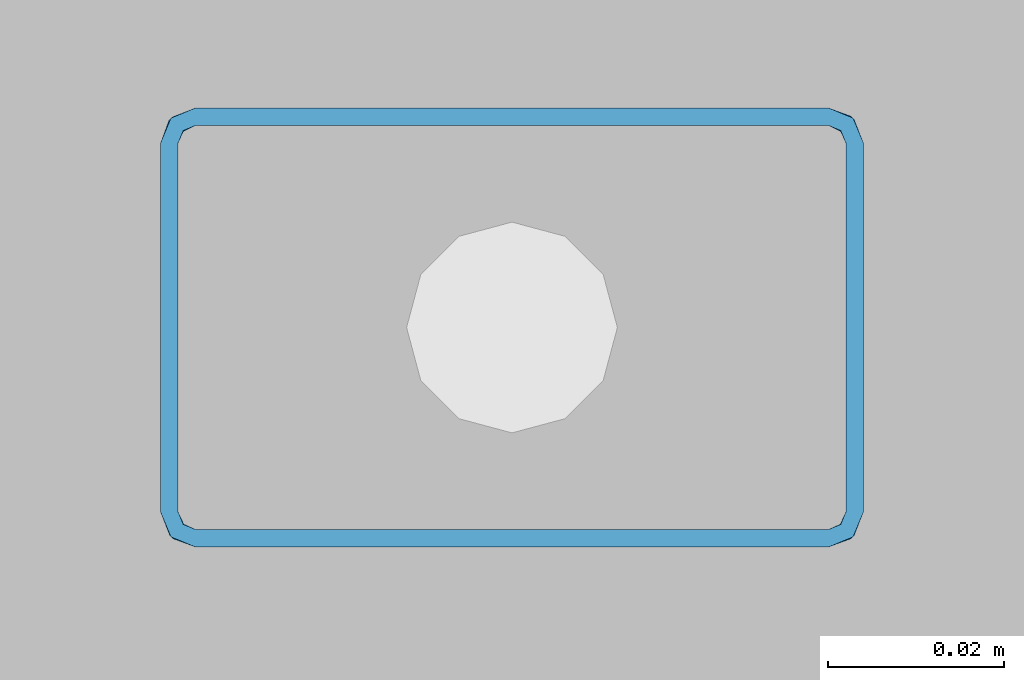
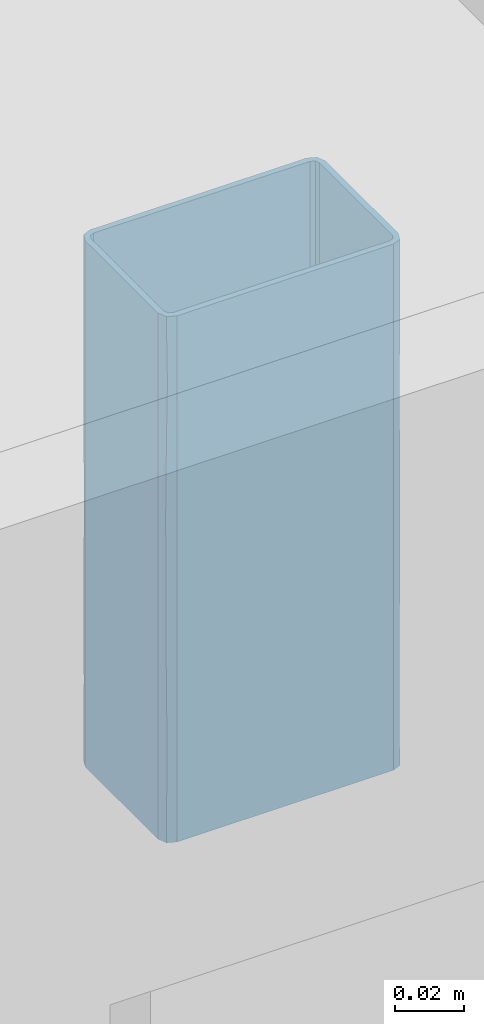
# One storey, part 140 of 186: 1 beam.
"""IFC4X3_ADD2 building model written with IfcOpenShell, lengths in millimetres."""

from ifc_helpers import new_model, si_unit, direction, frame, origin_with_axes, place, context, subcontext, project, spatial, polygons, element, save


model = new_model("IFC4X3_ADD2")

# Units and contexts
model_context = context("Model", 3, precision=1e-05, world=origin_with_axes(), true_north=direction((0.0, 1.0)))
body_context = subcontext(model_context, "Body", "Model", "MODEL_VIEW")
ifc_project = project(units=[si_unit("LENGTHUNIT", "METRE", prefix="MILLI"), si_unit("AREAUNIT", "SQUARE_METRE"), si_unit("VOLUMEUNIT", "CUBIC_METRE"), si_unit("PLANEANGLEUNIT", "RADIAN"), si_unit("TIMEUNIT", "SECOND"), si_unit("MASSUNIT", "GRAM")], contexts=[model_context])

# Site, building, storey
site_placement = place(None, origin_with_axes())
site = spatial("IfcSite", under=ifc_project, at=site_placement, Name="Site", CompositionType="ELEMENT")
building_placement = place(site_placement, origin_with_axes())
building = spatial("IfcBuilding", under=site, at=building_placement, Name="IFC Building Story")
storey_placement = place(building_placement, frame((0.0, 0.0, 4370.0), z_axis=(0.0, 0.0, 1.0), x_axis=(1.0, 0.0, 0.0)))
storey = spatial("IfcBuildingStorey", under=building, at=storey_placement, Name="ETAGE 10 (1)", Elevation=4370.0)

# Beam
beam_placement = place(storey_placement, frame((0.0, 0.0, -4370.0), z_axis=(0.0, 0.0, 1.0), x_axis=(1.0, 0.0, 0.0)))
element("IfcBeam", 1, at=beam_placement, inside=storey, Name="PS9", ObjectType="K50*80*2", context=body_context, shape_type="Tessellation", body=[
    polygons([(39874.18900000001, -14400.99999999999, 7549.598981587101), (39876.18900000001, -14400.99999999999, 7549.598981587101), (39873.60321356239, -14402.41421356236, 7549.598981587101), (39874.18900000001, -14358.99999999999, 7549.598981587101), (39876.18900000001, -14358.99999999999, 7549.598981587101), (39873.60321356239, -14357.58578643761, 7549.598981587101), (39875.01742712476, -14356.17157287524, 7549.598981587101), (39872.18900000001, -14354.99999999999, 7549.598981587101), (39872.18900000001, -14356.99999999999, 7549.598981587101), (39800.18900000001, -14354.99999999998, 7549.598981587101), (39800.18900000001, -14356.99999999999, 7549.598981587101), (39798.77478643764, -14357.58578643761, 7549.598981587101), (39797.36057287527, -14356.17157287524, 7549.598981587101), (39796.18900000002, -14358.99999999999, 7549.598981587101), (39798.18900000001, -14358.99999999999, 7549.598981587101), (39796.18900000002, -14400.99999999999, 7549.598981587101), (39798.18900000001, -14400.99999999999, 7549.598981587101), (39798.77478643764, -14402.41421356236, 7549.598981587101), (39797.36057287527, -14403.82842712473, 7549.598981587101), (39800.18900000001, -14404.99999999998, 7549.598981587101), (39800.18900000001, -14402.99999999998, 7549.598981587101), (39872.18900000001, -14402.99999999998, 7549.598981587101), (39872.18900000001, -14404.99999999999, 7549.598981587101), (39875.01742712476, -14403.82842712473, 7549.598981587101), (39798.18900000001, -14400.99999999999, 7734.598981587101), (39796.18900000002, -14400.99999999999, 7734.598981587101), (39798.77478643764, -14402.41421356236, 7734.598981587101), (39798.18900000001, -14358.99999999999, 7734.598981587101), (39796.18900000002, -14358.99999999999, 7734.598981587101), (39798.77478643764, -14357.58578643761, 7734.598981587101), (39797.36057287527, -14356.17157287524, 7734.598981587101), (39800.18900000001, -14354.99999999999, 7734.598981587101), (39800.18900000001, -14356.99999999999, 7734.598981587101), (39872.18900000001, -14354.99999999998, 7734.598981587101), (39872.18900000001, -14356.99999999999, 7734.598981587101), (39873.60321356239, -14357.58578643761, 7734.598981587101), (39875.01742712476, -14356.17157287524, 7734.598981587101), (39876.18900000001, -14358.99999999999, 7734.598981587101), (39874.18900000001, -14358.99999999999, 7734.598981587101), (39876.18900000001, -14400.99999999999, 7734.598981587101), (39874.18900000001, -14400.99999999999, 7734.598981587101), (39873.60321356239, -14402.41421356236, 7734.598981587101), (39875.01742712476, -14403.82842712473, 7734.598981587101), (39872.18900000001, -14404.99999999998, 7734.598981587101), (39872.18900000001, -14402.99999999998, 7734.598981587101), (39800.18900000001, -14402.99999999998, 7734.598981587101), (39800.18900000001, -14404.99999999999, 7734.598981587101), (39797.36057287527, -14403.82842712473, 7734.598981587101), (39800.18900000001, -14354.99999999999, 7567.057500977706), (39800.18900000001, -14354.99999999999, 7595.848981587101), (39800.18900000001, -14354.99999999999, 7618.973979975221), (39800.18900000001, -14354.99999999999, 7642.098981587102), (39800.18900000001, -14354.99999999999, 7665.22398319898), (39800.18900000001, -14354.99999999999, 7688.348981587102), (39800.18900000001, -14354.99999999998, 7717.140462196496), (39872.18900000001, -14354.99999999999, 7699.681936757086), (39872.18900000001, -14354.99999999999, 7677.016027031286), (39872.18900000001, -14354.99999999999, 7648.224549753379), (39872.18900000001, -14354.99999999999, 7619.433072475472), (39872.18900000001, -14354.99999999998, 7584.516026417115), (39874.87113952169, -14356.03248798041, 7688.348979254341), (39876.18900000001, -14358.99999999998, 7717.140460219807), (39876.18900000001, -14358.99999999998, 7567.057505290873), (39875.13732995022, -14356.29678885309, 7578.945875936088), (39875.13076139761, -14356.28964211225, 7653.661479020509), (39876.18900000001, -14358.99999999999, 7665.223981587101), (39875.13085629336, -14356.28974511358, 7628.466971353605), (39874.76834546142, -14355.94271738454, 7711.526446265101), (39876.18900000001, -14358.99999999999, 7688.348981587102), (39874.75782180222, -14355.93386977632, 7602.891747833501), (39876.18900000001, -14358.99999999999, 7642.098981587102), (39876.18900000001, -14358.99999999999, 7618.9739815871), (39876.18900000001, -14358.99999999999, 7595.848981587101), (39876.18900000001, -14400.99999999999, 7717.140458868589), (39876.18900000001, -14400.99999999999, 7688.348981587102), (39876.18900000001, -14400.99999999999, 7665.223981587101), (39876.18900000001, -14400.99999999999, 7642.098981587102), (39876.18900000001, -14400.99999999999, 7618.9739815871), (39876.18900000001, -14400.99999999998, 7595.848981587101), (39876.18900000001, -14400.99999999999, 7567.057504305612), (39875.13733021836, -14403.70321085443, 7705.252077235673), (39874.76834551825, -14404.05728256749, 7572.671514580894), (39874.87113952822, -14403.96751201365, 7595.848979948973), (39872.18900000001, -14404.99999999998, 7584.516027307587), (39872.18900000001, -14404.99999999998, 7607.181936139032), (39875.13076137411, -14403.71035791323, 7630.536479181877), (39872.18900000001, -14404.99999999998, 7699.681935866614), (39874.75782193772, -14404.06613011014, 7681.306206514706), (39875.13085619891, -14403.71025498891, 7655.73098495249), (39872.18900000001, -14404.99999999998, 7664.764890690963), (39872.18900000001, -14404.99999999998, 7635.973413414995), (39800.18900000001, -14404.99999999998, 7699.681936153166), (39800.18900000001, -14404.99999999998, 7670.890458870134), (39800.18900000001, -14404.99999999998, 7642.098981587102), (39800.18900000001, -14404.99999999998, 7618.973981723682), (39800.18900000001, -14404.99999999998, 7595.848981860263), (39800.18900000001, -14404.99999999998, 7567.057504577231), (39796.18900000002, -14400.99999999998, 7584.516027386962), (39796.18900000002, -14400.99999999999, 7619.433073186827), (39797.34856484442, -14403.81636789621, 7607.411479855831), (39796.18900000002, -14400.99999999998, 7699.681935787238), (39797.36057299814, -14403.8284272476, 7688.348976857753), (39797.60086179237, -14404.04984272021, 7711.473977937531), (39797.53711678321, -14403.99458100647, 7583.376471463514), (39797.22149317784, -14403.68214527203, 7663.470051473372), (39797.29673344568, -14403.76311313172, 7640.418718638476), (39796.18900000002, -14400.99999999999, 7677.01602659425), (39796.18900000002, -14400.99999999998, 7648.224549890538), (39796.18900000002, -14358.99999999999, 7699.681936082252), (39796.18900000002, -14358.99999999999, 7677.016027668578), (39796.18900000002, -14358.99999999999, 7648.224550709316), (39796.18900000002, -14358.99999999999, 7619.433072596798), (39796.18900000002, -14358.99999999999, 7584.516027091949), (39797.22148794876, -14356.31786051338, 7688.348978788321), (39797.48578884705, -14356.05167005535, 7578.945875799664), (39797.4786421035, -14356.05823861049, 7653.661478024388), (39797.47874509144, -14356.05814372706, 7628.466970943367), (39797.13171738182, -14356.42065454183, 7711.526445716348), (39797.12286975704, -14356.43117822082, 7602.891747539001), (39798.82900168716, -14357.53357421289, 7625.929039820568), (39798.18900000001, -14358.99999999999, 7623.66922028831), (39798.87417837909, -14357.49293526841, 7613.583468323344), (39798.61029313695, -14357.77212189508, 7664.531819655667), (39798.7117213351, -14357.65179832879, 7653.749277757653), (39800.18900000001, -14356.99999999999, 7665.223981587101), (39798.82900170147, -14357.53357419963, 7693.738959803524), (39798.18900000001, -14358.99999999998, 7702.259100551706), (39798.18900000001, -14358.99999999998, 7691.479140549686), (39798.18900000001, -14358.99999999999, 7680.699180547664), (39798.70209668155, -14357.6624206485, 7641.817961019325), (39800.18900000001, -14356.99999999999, 7642.098981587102), (39800.18900000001, -14356.99999999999, 7722.253941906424), (39798.77478646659, -14357.58578640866, 7717.646499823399), (39800.18900000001, -14356.99999999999, 7709.90890222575), (39798.78342951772, -14357.57719586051, 7705.830626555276), (39798.18900000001, -14358.99999999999, 7722.25394171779), (39798.18900000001, -14358.99999999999, 7561.94402094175), (39798.77478641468, -14357.58578646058, 7568.11654096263), (39800.18900000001, -14356.99999999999, 7561.944021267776), (39798.18900000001, -14358.99999999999, 7636.014260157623), (39798.18900000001, -14358.99999999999, 7586.634100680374), (39798.72836652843, -14357.63378264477, 7580.461580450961), (39798.77478639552, -14357.58578647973, 7592.806619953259), (39798.71633825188, -14357.64675671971, 7675.309197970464), (39800.18900000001, -14356.99999999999, 7688.348981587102), (39798.18900000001, -14358.99999999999, 7598.979140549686), (39798.18900000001, -14358.99999999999, 7574.289060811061), (39800.18900000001, -14356.99999999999, 7586.63410062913), (39800.18900000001, -14356.99999999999, 7574.289060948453), (39798.18900000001, -14358.99999999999, 7713.039061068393), (39800.18900000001, -14356.99999999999, 7699.128941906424), (39798.18900000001, -14358.99999999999, 7659.139259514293), (39798.18900000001, -14358.99999999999, 7648.359299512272), (39798.18900000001, -14358.99999999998, 7669.919220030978), (39800.18900000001, -14356.99999999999, 7653.661481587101), (39800.18900000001, -14356.99999999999, 7631.319021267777), (39800.18900000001, -14356.99999999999, 7676.786481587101), (39800.18900000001, -14356.99999999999, 7620.539060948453), (39798.18900000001, -14358.99999999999, 7611.324180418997), (39798.633445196, -14357.74292034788, 7603.287688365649), (39800.18900000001, -14356.99999999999, 7609.759100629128), (39800.18900000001, -14356.99999999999, 7598.979140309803), (39798.18900000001, -14400.99999999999, 7722.253941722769), (39798.18900000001, -14400.99999999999, 7709.908901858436), (39798.18900000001, -14400.99999999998, 7699.128941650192), (39798.18900000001, -14400.99999999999, 7688.348981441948), (39798.18900000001, -14400.99999999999, 7676.786481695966), (39798.18900000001, -14400.99999999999, 7665.223981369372), (39798.18900000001, -14400.99999999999, 7653.661481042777), (39798.18900000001, -14400.99999999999, 7642.098981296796), (39798.18900000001, -14400.99999999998, 7630.536481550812), (39798.18900000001, -14400.99999999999, 7618.973981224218), (39798.18900000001, -14400.99999999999, 7607.411480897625), (39798.18900000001, -14400.99999999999, 7595.848981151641), (39798.18900000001, -14400.99999999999, 7585.069020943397), (39798.18900000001, -14400.99999999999, 7574.289060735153), (39798.18900000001, -14400.99999999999, 7561.944021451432), (39798.70496062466, -14402.3407561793, 7659.44273014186), (39798.66485584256, -14402.29498439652, 7647.880618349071), (39798.87424681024, -14402.50712443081, 7621.237918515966), (39798.70296043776, -14402.33853891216, 7636.317730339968), (39800.18900000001, -14402.99999999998, 7625.058702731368), (39800.18900000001, -14402.99999999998, 7561.944020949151), (39798.77478644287, -14402.41421356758, 7566.551461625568), (39800.18900000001, -14402.99999999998, 7571.158902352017), (39798.72257418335, -14402.35999828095, 7579.67904054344), (39798.70041971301, -14402.33571281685, 7694.823087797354), (39798.71734898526, -14402.35434238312, 7682.567730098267), (39800.18900000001, -14402.99999999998, 7648.18370400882), (39798.73451716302, -14402.37276351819, 7591.347273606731), (39800.18900000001, -14402.99999999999, 7581.938862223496), (39800.18900000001, -14402.99999999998, 7722.25394222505), (39800.18900000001, -14402.99999999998, 7685.218823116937), (39798.77478642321, -14402.41421354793, 7716.08142123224), (39800.18900000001, -14402.99999999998, 7709.908901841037), (39800.18900000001, -14402.99999999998, 7672.873782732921), (39798.66529696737, -14402.29550340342, 7671.008022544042), (39800.18900000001, -14402.99999999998, 7660.528743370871), (39798.83575669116, -14402.47266172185, 7608.888762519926), (39800.18900000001, -14402.99999999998, 7614.278742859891), (39800.18900000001, -14402.99999999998, 7603.498782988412), (39800.18900000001, -14402.99999999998, 7592.718822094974), (39800.18900000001, -14402.99999999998, 7697.563862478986), (39798.91915055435, -14402.54514801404, 7705.388109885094), (39800.18900000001, -14402.99999999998, 7635.838663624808), (39872.18900000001, -14402.99999999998, 7722.253942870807), (39872.18900000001, -14402.99999999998, 7711.473981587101), (39872.18900000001, -14402.99999999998, 7699.9114815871), (39872.18900000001, -14402.99999999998, 7688.348981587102), (39872.18900000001, -14402.99999999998, 7676.786481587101), (39872.18900000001, -14402.99999999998, 7665.223981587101), (39872.18900000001, -14402.99999999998, 7653.661481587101), (39872.18900000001, -14402.99999999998, 7642.098981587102), (39872.18900000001, -14402.99999999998, 7630.536481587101), (39872.18900000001, -14402.99999999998, 7618.9739815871), (39872.18900000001, -14402.99999999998, 7607.411481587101), (39872.18900000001, -14402.99999999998, 7595.848981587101), (39872.18900000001, -14402.99999999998, 7585.069020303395), (39872.18900000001, -14402.99999999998, 7574.289060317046), (39872.18900000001, -14402.99999999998, 7561.944020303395), (39873.52975615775, -14402.48403939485, 7659.442730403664), (39873.48398437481, -14402.52414417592, 7647.880618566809), (39873.69612441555, -14402.31475320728, 7621.237918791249), (39873.52753889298, -14402.48603957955, 7636.317730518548), (39874.18900000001, -14400.99999999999, 7625.058703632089), (39873.47519377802, -14402.53156964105, 7705.518256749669), (39874.18900000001, -14400.99999999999, 7561.944022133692), (39873.60321356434, -14402.41421356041, 7566.551461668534), (39874.18900000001, -14400.99999999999, 7571.158902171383), (39874.18900000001, -14400.99999999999, 7722.253942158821), (39873.54899827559, -14402.46642582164, 7579.679040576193), (39874.18900000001, -14400.99999999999, 7685.218822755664), (39873.55431837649, -14402.46147382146, 7694.130230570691), (39874.18900000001, -14400.99999999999, 7697.563862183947), (39873.67461845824, -14402.33900627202, 7679.046301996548), (39873.56176351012, -14402.45448284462, 7591.347273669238), (39874.18900000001, -14400.99999999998, 7581.938862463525), (39874.18900000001, -14400.99999999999, 7709.908902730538), (39873.60321354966, -14402.41421357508, 7716.86396120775), (39874.18900000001, -14400.99999999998, 7648.183703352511), (39874.18900000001, -14400.99999999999, 7672.873783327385), (39874.18900000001, -14400.99999999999, 7660.528742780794), (39873.66166170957, -14402.35324332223, 7608.888762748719), (39874.18900000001, -14400.99999999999, 7614.278743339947), (39874.18900000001, -14400.99999999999, 7603.498783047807), (39874.18900000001, -14400.99999999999, 7592.718822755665), (39874.18900000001, -14400.99999999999, 7635.838663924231), (39874.18900000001, -14358.99999999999, 7722.253941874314), (39874.18900000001, -14358.99999999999, 7709.908902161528), (39874.18900000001, -14358.99999999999, 7697.563862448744), (39874.18900000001, -14358.99999999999, 7685.218822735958), (39874.18900000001, -14358.99999999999, 7672.873783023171), (39874.18900000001, -14358.99999999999, 7660.528743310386), (39874.18900000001, -14358.99999999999, 7648.183703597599), (39874.18900000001, -14358.99999999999, 7635.838663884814), (39874.18900000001, -14358.99999999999, 7625.0587035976), (39874.18900000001, -14358.99999999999, 7614.278743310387), (39874.18900000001, -14358.99999999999, 7603.498783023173), (39874.18900000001, -14358.99999999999, 7592.718822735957), (39874.18900000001, -14358.99999999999, 7581.938862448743), (39874.18900000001, -14358.99999999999, 7571.158902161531), (39874.18900000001, -14358.99999999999, 7561.944021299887), (39873.76770674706, -14357.77212174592, 7619.666140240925), (39873.66627859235, -14357.65179824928, 7630.448682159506), (39872.18900000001, -14356.99999999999, 7618.973981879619), (39873.5489982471, -14357.5335741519, 7658.268919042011), (39873.50382159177, -14357.49293524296, 7670.614489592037), (39873.60321360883, -14357.58578648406, 7716.081418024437), (39873.60321362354, -14357.58578649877, 7702.876051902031), (39872.18900000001, -14356.99999999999, 7709.908902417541), (39872.18900000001, -14356.99999999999, 7642.098981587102), (39873.67590326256, -14357.66242058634, 7642.379998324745), (39873.54899825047, -14357.53357415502, 7590.459000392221), (39873.59457048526, -14357.57719586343, 7578.367333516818), (39872.18900000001, -14356.99999999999, 7574.289060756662), (39873.60321356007, -14357.58578643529, 7566.551461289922), (39873.66166167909, -14357.64675664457, 7608.888761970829), (39872.18900000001, -14356.99999999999, 7595.848981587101), (39872.18900000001, -14356.99999999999, 7697.563862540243), (39873.60321352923, -14357.58578640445, 7690.510053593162), (39872.18900000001, -14356.99999999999, 7722.253941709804), (39872.18900000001, -14356.99999999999, 7561.944021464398), (39872.18900000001, -14356.99999999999, 7585.069021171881), (39872.18900000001, -14356.99999999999, 7630.536482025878), (39872.18900000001, -14356.99999999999, 7652.878942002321), (39872.18900000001, -14356.99999999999, 7607.41148173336), (39872.18900000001, -14356.99999999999, 7663.658901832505), (39872.18900000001, -14356.99999999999, 7674.438862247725), (39872.18900000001, -14356.99999999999, 7685.218822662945)], [[[1, 2, 3]], [[2, 1, 4]], [[4, 5, 2]], [[6, 5, 4]], [[7, 5, 6]], [[6, 8, 7]], [[6, 9, 8]], [[8, 9, 10]], [[11, 10, 9]], [[11, 12, 10]], [[10, 12, 13]], [[14, 13, 12]], [[14, 12, 15]], [[14, 15, 16]], [[17, 16, 15]], [[18, 16, 17]], [[16, 18, 19]], [[18, 20, 19]], [[21, 20, 18]], [[20, 21, 22]], [[3, 23, 22]], [[22, 23, 20]], [[3, 2, 24]], [[23, 3, 24]], [[25, 26, 27]], [[26, 25, 28]], [[28, 29, 26]], [[30, 29, 28]], [[31, 29, 30]], [[30, 32, 31]], [[30, 33, 32]], [[32, 33, 34]], [[35, 34, 33]], [[35, 36, 34]], [[34, 36, 37]], [[38, 37, 36]], [[38, 36, 39]], [[38, 39, 40]], [[41, 40, 39]], [[42, 40, 41]], [[40, 42, 43]], [[42, 44, 43]], [[45, 44, 42]], [[44, 45, 46]], [[27, 47, 46]], [[46, 47, 44]], [[27, 26, 48]], [[47, 27, 48]], [[55, 32, 34]], [[56, 57, 54]], [[54, 55, 34]], [[54, 34, 56]], [[57, 53, 54]], [[57, 58, 52]], [[57, 52, 53]], [[58, 59, 51]], [[58, 51, 52]], [[59, 60, 50]], [[59, 50, 51]], [[60, 8, 49]], [[60, 49, 50]], [[8, 10, 49]], [[61, 57, 56]], [[37, 38, 62]], [[63, 5, 7]], [[7, 8, 64]], [[61, 65, 57]], [[66, 65, 61]], [[67, 59, 58]], [[61, 68, 69]], [[61, 56, 68]], [[8, 60, 64]], [[67, 70, 59]], [[34, 37, 68]], [[64, 60, 70]], [[68, 62, 69]], [[58, 65, 67]], [[65, 66, 71]], [[61, 69, 66]], [[65, 71, 67]], [[57, 65, 58]], [[70, 72, 73]], [[72, 70, 67]], [[64, 73, 63]], [[60, 59, 70]], [[34, 68, 56]], [[62, 68, 37]], [[67, 71, 72]], [[73, 64, 70]], [[7, 64, 63]], [[62, 38, 40]], [[62, 40, 74]], [[74, 75, 69]], [[74, 69, 62]], [[75, 76, 66]], [[75, 66, 69]], [[76, 77, 71]], [[76, 71, 66]], [[77, 78, 72]], [[77, 72, 71]], [[78, 79, 73]], [[78, 73, 72]], [[79, 80, 63]], [[79, 63, 73]], [[80, 2, 5]], [[80, 5, 63]], [[43, 44, 81]], [[82, 79, 83]], [[84, 83, 85]], [[82, 80, 79]], [[83, 86, 85]], [[24, 2, 80]], [[74, 40, 43]], [[78, 86, 83]], [[81, 44, 87]], [[87, 88, 81]], [[89, 90, 91]], [[89, 88, 90]], [[23, 24, 82]], [[83, 84, 82]], [[91, 86, 89]], [[86, 78, 77]], [[83, 79, 78]], [[86, 77, 89]], [[85, 86, 91]], [[88, 76, 75]], [[76, 88, 89]], [[81, 75, 74]], [[87, 90, 88]], [[23, 82, 84]], [[80, 82, 24]], [[89, 77, 76]], [[75, 81, 88]], [[43, 81, 74]], [[87, 44, 47]], [[87, 47, 92]], [[92, 93, 90]], [[92, 90, 87]], [[93, 94, 91]], [[93, 91, 90]], [[95, 96, 85]], [[85, 91, 94]], [[85, 94, 95]], [[96, 84, 85]], [[97, 20, 23]], [[97, 23, 84]], [[84, 96, 97]], [[98, 16, 19]], [[99, 98, 100]], [[101, 102, 103]], [[19, 97, 104]], [[48, 103, 47]], [[94, 105, 106]], [[93, 102, 105]], [[96, 100, 104]], [[105, 102, 107]], [[26, 101, 103]], [[100, 106, 99]], [[19, 20, 97]], [[101, 107, 102]], [[105, 94, 93]], [[103, 102, 92]], [[93, 92, 102]], [[107, 108, 105]], [[105, 108, 106]], [[47, 103, 92]], [[103, 48, 26]], [[108, 99, 106]], [[96, 95, 100]], [[100, 95, 106]], [[95, 94, 106]], [[104, 100, 98]], [[19, 104, 98]], [[97, 96, 104]], [[101, 26, 29]], [[101, 29, 109]], [[109, 110, 107]], [[109, 107, 101]], [[110, 111, 108]], [[110, 108, 107]], [[111, 112, 99]], [[111, 99, 108]], [[112, 113, 98]], [[112, 98, 99]], [[113, 14, 16]], [[113, 16, 98]], [[114, 110, 109]], [[31, 32, 55]], [[49, 10, 13]], [[13, 14, 115]], [[114, 116, 110]], [[53, 116, 114]], [[117, 112, 111]], [[114, 118, 54]], [[114, 109, 118]], [[14, 113, 115]], [[117, 119, 112]], [[29, 31, 118]], [[115, 113, 119]], [[118, 55, 54]], [[111, 116, 117]], [[116, 53, 52]], [[114, 54, 53]], [[116, 52, 117]], [[110, 116, 111]], [[119, 51, 50]], [[51, 119, 117]], [[115, 50, 49]], [[113, 112, 119]], [[29, 118, 109]], [[55, 118, 31]], [[117, 52, 51]], [[50, 115, 119]], [[13, 115, 49]], [[120, 121, 122]], [[123, 124, 125]], [[126, 127, 128, 129]], [[124, 130, 131]], [[132, 30, 133]], [[134, 133, 135]], [[30, 28, 136]], [[137, 15, 12]], [[138, 12, 139]], [[120, 130, 140]], [[141, 142, 143]], [[144, 145, 126]], [[141, 143, 146]], [[137, 138, 147]], [[148, 142, 149]], [[30, 136, 133]], [[150, 133, 136]], [[12, 11, 139]], [[132, 33, 30]], [[12, 138, 137]], [[133, 134, 132]], [[150, 127, 135]], [[135, 126, 151]], [[150, 135, 133]], [[151, 126, 145]], [[152, 153, 124]], [[129, 154, 144]], [[124, 131, 155, 125]], [[130, 120, 156]], [[144, 154, 123]], [[157, 145, 144, 125]], [[129, 144, 126]], [[152, 123, 154]], [[158, 120, 122]], [[142, 138, 149]], [[142, 141, 147]], [[149, 138, 139]], [[159, 122, 121]], [[153, 130, 124]], [[159, 160, 122]], [[156, 120, 158]], [[121, 120, 140]], [[143, 160, 146]], [[161, 158, 122]], [[143, 162, 160]], [[148, 162, 143]], [[143, 142, 148]], [[138, 142, 147]], [[144, 123, 125]], [[124, 123, 152]], [[134, 135, 151]], [[135, 127, 126]], [[146, 160, 159]], [[162, 161, 160]], [[161, 122, 160]], [[156, 131, 130]], [[140, 130, 153]], [[136, 28, 25]], [[136, 25, 163]], [[163, 164, 150]], [[163, 150, 136]], [[164, 165, 127]], [[164, 127, 150]], [[165, 166, 128]], [[165, 128, 127]], [[166, 167, 129]], [[166, 129, 128]], [[167, 168, 154]], [[167, 154, 129]], [[168, 169, 152]], [[168, 152, 154]], [[169, 153, 152]], [[170, 171, 140]], [[140, 153, 169]], [[140, 169, 170]], [[171, 172, 121]], [[171, 121, 140]], [[172, 173, 159]], [[172, 159, 121]], [[173, 174, 146]], [[173, 146, 159]], [[174, 175, 141]], [[174, 141, 146]], [[175, 176, 147]], [[175, 147, 141]], [[176, 177, 137]], [[176, 137, 147]], [[177, 17, 15]], [[177, 15, 137]], [[178, 179, 169]], [[180, 181, 182]], [[163, 25, 27]], [[18, 17, 177]], [[183, 184, 185]], [[176, 175, 186]], [[187, 188, 166]], [[166, 188, 167]], [[189, 179, 178]], [[190, 186, 175]], [[186, 190, 191]], [[183, 21, 18]], [[46, 192, 27]], [[187, 193, 188]], [[163, 194, 164]], [[195, 194, 192]], [[185, 186, 191]], [[27, 194, 163]], [[196, 197, 188]], [[169, 168, 178]], [[18, 177, 176, 184]], [[198, 189, 178]], [[18, 184, 183]], [[186, 185, 184]], [[199, 200, 201]], [[176, 186, 184]], [[202, 191, 190, 201]], [[27, 192, 194]], [[190, 199, 201]], [[179, 181, 170]], [[197, 196, 198]], [[178, 168, 197]], [[193, 196, 188]], [[197, 167, 188]], [[187, 203, 193]], [[195, 204, 194]], [[165, 164, 204]], [[180, 199, 172]], [[172, 199, 174, 173]], [[199, 190, 174]], [[180, 200, 199]], [[205, 182, 181, 189]], [[171, 181, 180]], [[204, 195, 203]], [[187, 165, 204]], [[170, 181, 171]], [[180, 172, 171]], [[169, 179, 170]], [[181, 179, 189]], [[167, 197, 168]], [[198, 178, 197]], [[182, 200, 180]], [[187, 166, 165]], [[194, 204, 164]], [[187, 204, 203]], [[174, 190, 175]], [[192, 46, 45]], [[192, 45, 206]], [[206, 207, 195]], [[206, 195, 192]], [[207, 208, 203]], [[207, 203, 195]], [[208, 209, 193]], [[208, 193, 203]], [[209, 210, 196]], [[209, 196, 193]], [[210, 211, 198]], [[210, 198, 196]], [[211, 212, 189]], [[211, 189, 198]], [[213, 214, 205]], [[213, 205, 189]], [[189, 212, 213]], [[214, 182, 205]], [[214, 215, 200]], [[214, 200, 182]], [[215, 216, 201]], [[215, 201, 200]], [[216, 217, 202]], [[216, 202, 201]], [[217, 218, 191]], [[217, 191, 202]], [[218, 219, 185]], [[218, 185, 191]], [[219, 220, 183]], [[219, 183, 185]], [[220, 22, 21]], [[220, 21, 183]], [[221, 222, 212]], [[223, 224, 225]], [[208, 207, 226]], [[227, 1, 3]], [[227, 3, 228]], [[228, 229, 227]], [[42, 41, 230]], [[219, 218, 231]], [[232, 233, 234]], [[233, 235, 209]], [[208, 233, 209]], [[236, 231, 218]], [[231, 236, 237]], [[238, 226, 239]], [[206, 239, 207]], [[208, 226, 233]], [[206, 45, 42]], [[220, 219, 228]], [[228, 3, 22]], [[228, 22, 220]], [[229, 231, 237]], [[42, 230, 239]], [[42, 239, 206]], [[239, 230, 238]], [[240, 222, 221]], [[221, 235, 241]], [[212, 211, 221]], [[242, 240, 221, 241]], [[231, 229, 228]], [[243, 244, 245]], [[219, 231, 228]], [[246, 237, 236, 245]], [[241, 235, 232]], [[238, 234, 226]], [[222, 224, 213]], [[210, 209, 235, 211]], [[235, 221, 211]], [[236, 243, 245]], [[223, 243, 215]], [[215, 243, 217, 216]], [[243, 236, 217]], [[223, 244, 243]], [[247, 225, 224, 240]], [[214, 224, 223]], [[213, 224, 214]], [[223, 215, 214]], [[232, 235, 233]], [[212, 222, 213]], [[224, 222, 240]], [[234, 233, 226]], [[239, 226, 207]], [[225, 244, 223]], [[217, 236, 218]], [[230, 41, 39]], [[230, 39, 248]], [[248, 249, 238]], [[248, 238, 230]], [[249, 250, 234]], [[249, 234, 238]], [[250, 251, 232]], [[250, 232, 234]], [[251, 252, 241]], [[251, 241, 232]], [[252, 253, 242]], [[252, 242, 241]], [[253, 254, 240]], [[253, 240, 242]], [[254, 255, 247]], [[254, 247, 240]], [[255, 256, 225]], [[255, 225, 247]], [[256, 257, 244]], [[256, 244, 225]], [[257, 258, 245]], [[257, 245, 244]], [[258, 259, 246]], [[258, 246, 245]], [[259, 260, 237]], [[259, 237, 246]], [[260, 261, 229]], [[260, 229, 237]], [[261, 262, 227]], [[261, 227, 229]], [[262, 4, 1]], [[262, 1, 227]], [[263, 264, 265]], [[266, 253, 267]], [[249, 248, 268]], [[269, 268, 270]], [[271, 264, 272]], [[273, 260, 259, 258]], [[261, 260, 274]], [[275, 276, 274]], [[266, 272, 254]], [[262, 261, 276]], [[276, 6, 4]], [[276, 4, 262]], [[248, 39, 36]], [[277, 278, 273]], [[269, 279, 280]], [[35, 281, 36]], [[282, 9, 6]], [[36, 268, 248]], [[282, 6, 276]], [[281, 270, 268]], [[282, 276, 275]], [[274, 273, 283]], [[261, 274, 276]], [[283, 273, 278]], [[256, 255, 264]], [[258, 257, 277]], [[264, 271, 284, 265]], [[272, 266, 285]], [[277, 257, 263]], [[286, 278, 277, 265]], [[258, 277, 273]], [[256, 263, 257]], [[36, 281, 268]], [[249, 268, 269]], [[252, 251, 267, 253]], [[255, 272, 264]], [[287, 266, 267]], [[285, 266, 287]], [[253, 266, 254]], [[250, 249, 269]], [[280, 250, 269]], [[288, 287, 267, 289]], [[280, 289, 267]], [[277, 263, 265]], [[251, 250, 280]], [[269, 270, 279]], [[264, 263, 256]], [[275, 274, 283]], [[274, 260, 273]], [[285, 271, 272]], [[254, 272, 255]], [[251, 280, 267]], [[289, 280, 279]], [[281, 35, 33]], [[281, 33, 132]], [[132, 134, 270]], [[132, 270, 281]], [[134, 151, 279]], [[134, 279, 270]], [[151, 145, 289]], [[151, 289, 279]], [[145, 157, 288]], [[145, 288, 289]], [[157, 125, 287]], [[157, 287, 288]], [[125, 155, 285]], [[125, 285, 287]], [[155, 131, 271]], [[155, 271, 285]], [[131, 156, 284]], [[131, 284, 271]], [[156, 158, 265]], [[156, 265, 284]], [[158, 161, 286]], [[158, 286, 265]], [[161, 162, 278]], [[161, 278, 286]], [[162, 148, 283]], [[162, 283, 278]], [[148, 149, 275]], [[148, 275, 283]], [[149, 139, 282]], [[149, 282, 275]], [[139, 11, 9]], [[139, 9, 282]]]),
])

save(model, "model.ifc")
